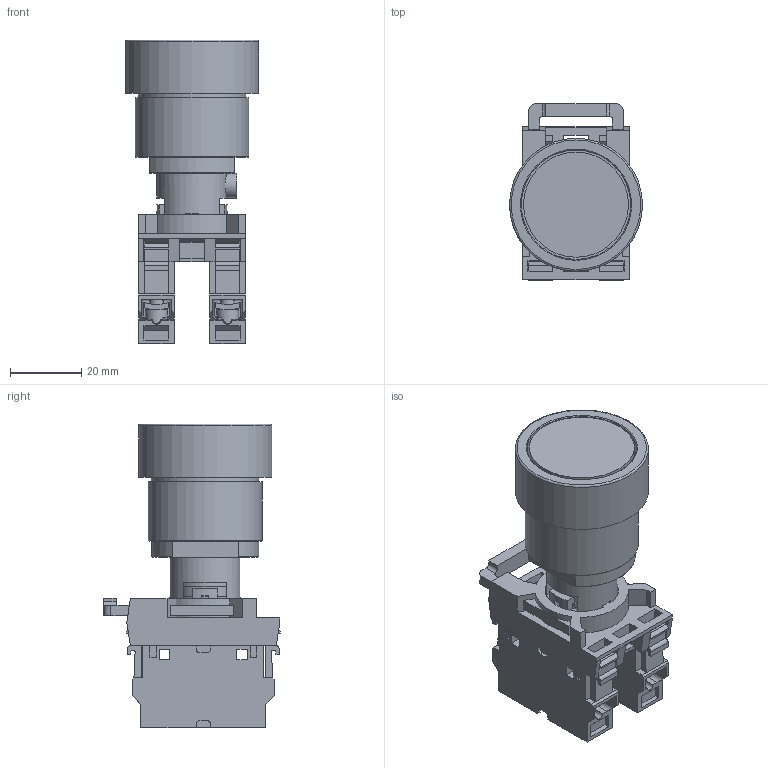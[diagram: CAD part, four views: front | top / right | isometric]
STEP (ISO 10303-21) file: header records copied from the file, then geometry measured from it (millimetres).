
FILE_DESCRIPTION((''),'2;1');
FILE_NAME('\\192.168.5.25\cortem_klient\INVENTOR БАЗА МОДЕЛЕЙ\Актуальная база моделей для отдела продаж\Элементы управления и индикации\КГВ01\КГВ01К11.stp','2019-04-09T12:01:37',('A.S.Kozlov'),(''),'Autodesk Inventor 2012','Autodesk Inventor 2012','');
FILE_SCHEMA(('CONFIG_CONTROL_DESIGN'));
Length unit declared in the file: millimetre
Products named in the file (1): КГВ01К11_Внешний контур_1
Bounding box: 37.4 x 49.65 x 85.4 mm (x, y, z)
Surface area: 38589.2 mm2 (no closed solid volume)
Topology: 0 solids, 15 shells, 862 faces, 2386 edges, 1573 vertices
Faces by surface type: plane 692, cylinder 96, bspline 36, cone 33, torus 5
Full cylindrical faces by diameter (mm): 3.242 x1, 3.85 x2, 4 x5, 4.15 x1, 5.6 x1, 6.2 x4, 6.4 x1, 6.5 x4, 7 x2, 7.9 x1, 7.95 x3, 8.9 x1, 10.376 x1, 11.95 x1, 12 x1, 14.7 x1, 15.45 x1, 15.7 x2, 15.8 x1, 18 x1, 19.8 x1, 28.5 x1, 29.5 x1, 30.2 x1, 30.75 x1, 32 x1, 37.4 x1
Entity records: 28995 total; most frequent: CARTESIAN_POINT 6451, ORIENTED_EDGE 4596, DIRECTION 4174, EDGE_CURVE 2298, VECTOR 1764, LINE 1764, VERTEX_POINT 1545, AXIS2_PLACEMENT_3D 1205
